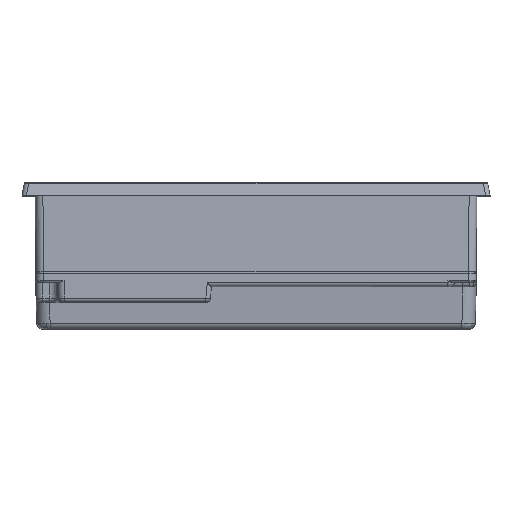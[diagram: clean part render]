
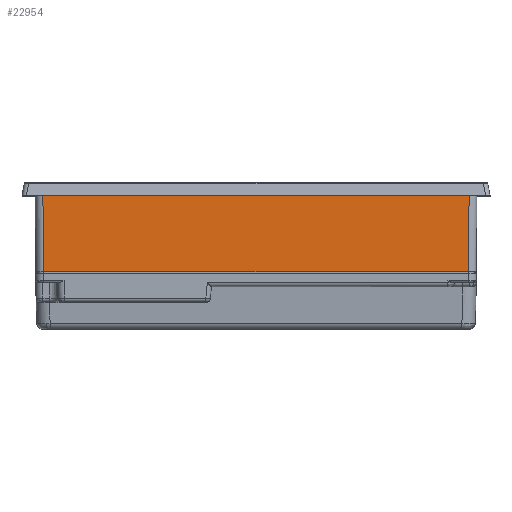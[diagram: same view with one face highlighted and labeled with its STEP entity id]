
A CAD part, top view. The second image highlights one B-rep face of the part: STEP entity #22954.
In plain terms, the highlighted planar face has unit normal (0, -0.009, 1).
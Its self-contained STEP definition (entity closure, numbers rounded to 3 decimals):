
#353 = CARTESIAN_POINT ( 'NONE',  ( -104.85, 3., 69.004 ) ) ;
#1737 = DIRECTION ( 'NONE',  ( 0., -0.009, 1. ) ) ;
#2077 = DIRECTION ( 'NONE',  ( 0.009, -1., -0.009 ) ) ;
#2572 = CARTESIAN_POINT ( 'NONE',  ( 99., -34., 68.681 ) ) ;
#2824 = DIRECTION ( 'NONE',  ( -1., 0., 0. ) ) ;
#4314 = AXIS2_PLACEMENT_3D ( 'NONE', #16310, #1737, #18786 ) ;
#4795 = CARTESIAN_POINT ( 'NONE',  ( 95.182, -34., 68.681 ) ) ;
#5124 = LINE ( 'NONE', #12640, #17306 ) ;
#5143 = CARTESIAN_POINT ( 'NONE',  ( -95.504, 3., 69.004 ) ) ;
#6829 = VERTEX_POINT ( 'NONE', #4795 ) ;
#7305 = VERTEX_POINT ( 'NONE', #14690 ) ;
#8866 = EDGE_CURVE ( 'NONE', #7305, #31431, #31702, .T. ) ;
#9385 = EDGE_CURVE ( 'NONE', #20102, #6829, #30127, .T. ) ;
#12172 = VECTOR ( 'NONE', #2824, 1000. ) ;
#12638 = CARTESIAN_POINT ( 'NONE',  ( -95.182, -34., 68.681 ) ) ;
#12640 = CARTESIAN_POINT ( 'NONE',  ( 95.5, 2.531, 69. ) ) ;
#14417 = EDGE_CURVE ( 'NONE', #31431, #20102, #17710, .T. ) ;
#14690 = CARTESIAN_POINT ( 'NONE',  ( 95.504, 3., 69.004 ) ) ;
#14940 = ORIENTED_EDGE ( 'NONE', *, *, #14417, .T. ) ;
#15093 = DIRECTION ( 'NONE',  ( 0.009, 1., 0.009 ) ) ;
#15152 = EDGE_CURVE ( 'NONE', #6829, #7305, #5124, .T. ) ;
#16310 = CARTESIAN_POINT ( 'NONE',  ( 99., 2.5, 69. ) ) ;
#16652 = CARTESIAN_POINT ( 'NONE',  ( -95.485, 0.803, 68.985 ) ) ;
#17306 = VECTOR ( 'NONE', #15093, 1000. ) ;
#17660 = ORIENTED_EDGE ( 'NONE', *, *, #8866, .T. ) ;
#17710 = LINE ( 'NONE', #16652, #20012 ) ;
#18786 = DIRECTION ( 'NONE',  ( 0., -1., -0.009 ) ) ;
#20012 = VECTOR ( 'NONE', #2077, 1000. ) ;
#20102 = VERTEX_POINT ( 'NONE', #12638 ) ;
#22855 = ORIENTED_EDGE ( 'NONE', *, *, #15152, .T. ) ;
#22954 = ADVANCED_FACE ( 'NONE', ( #27781 ), #28553, .T. ) ;
#24383 = VECTOR ( 'NONE', #26908, 1000. ) ;
#24538 = ORIENTED_EDGE ( 'NONE', *, *, #9385, .T. ) ;
#26908 = DIRECTION ( 'NONE',  ( 1., 0., 0. ) ) ;
#27781 = FACE_OUTER_BOUND ( 'NONE', #31400, .T. ) ;
#28553 = PLANE ( 'NONE',  #4314 ) ;
#30127 = LINE ( 'NONE', #2572, #24383 ) ;
#31400 = EDGE_LOOP ( 'NONE', ( #24538, #22855, #17660, #14940 ) ) ;
#31431 = VERTEX_POINT ( 'NONE', #5143 ) ;
#31702 = LINE ( 'NONE', #353, #12172 ) ;
